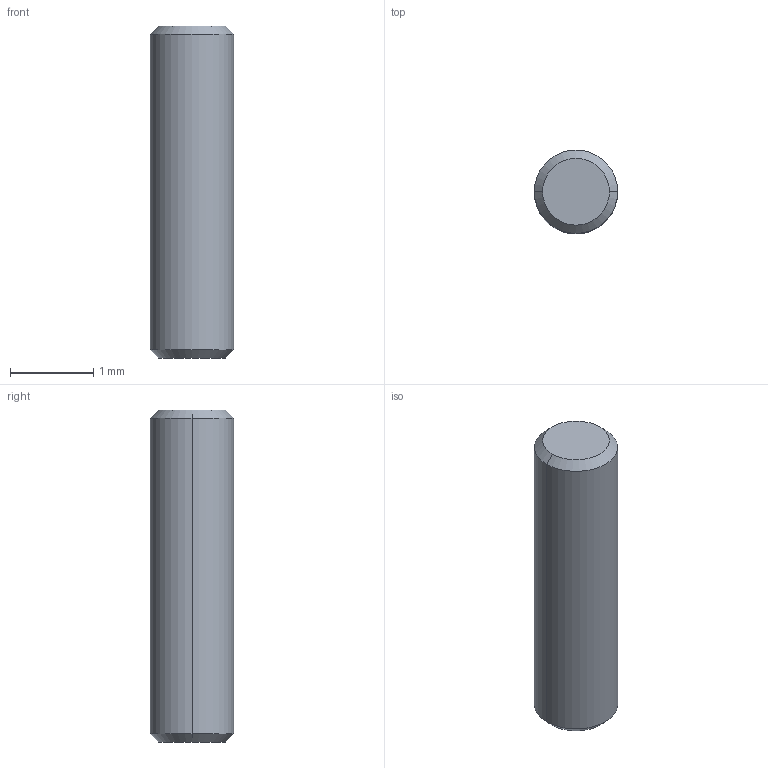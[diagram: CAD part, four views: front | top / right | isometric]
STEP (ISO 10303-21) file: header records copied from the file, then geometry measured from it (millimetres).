
FILE_DESCRIPTION(/* description */ ('VariCAD 2010-1.04 AP-203'),/* implementation_level */ '2;1');
FILE_NAME(/* name */ '0353-84-01',/* time_stamp */ '2010-01-13T15:09:43-07:00',/* author */ (''),/* organization */ (''),/* preprocessor_version */ 'ST-DEVELOPER v12',/* originating_system */ 'VariCAD 2010-1.04; kernel version (20090520)',/* authorisation */ '');
FILE_SCHEMA (('CONFIG_CONTROL_DESIGN'));
Length unit declared in the file: millimetre
Products named in the file (1): Part
Bounding box: 1 x 1 x 4 mm (x, y, z)
Volume: 3.1 mm3; surface area: 13.8 mm2
Topology: 1 solids, 1 shells, 8 faces, 14 edges, 8 vertices
Faces by surface type: cone 4, cylinder 2, plane 2
Entity records: 240 total; most frequent: DIRECTION 42, CARTESIAN_POINT 32, ORIENTED_EDGE 28, AXIS2_PLACEMENT_3D 18, EDGE_CURVE 14, ADVANCED_FACE 8, FACE_OUTER_BOUND 8, EDGE_LOOP 8
